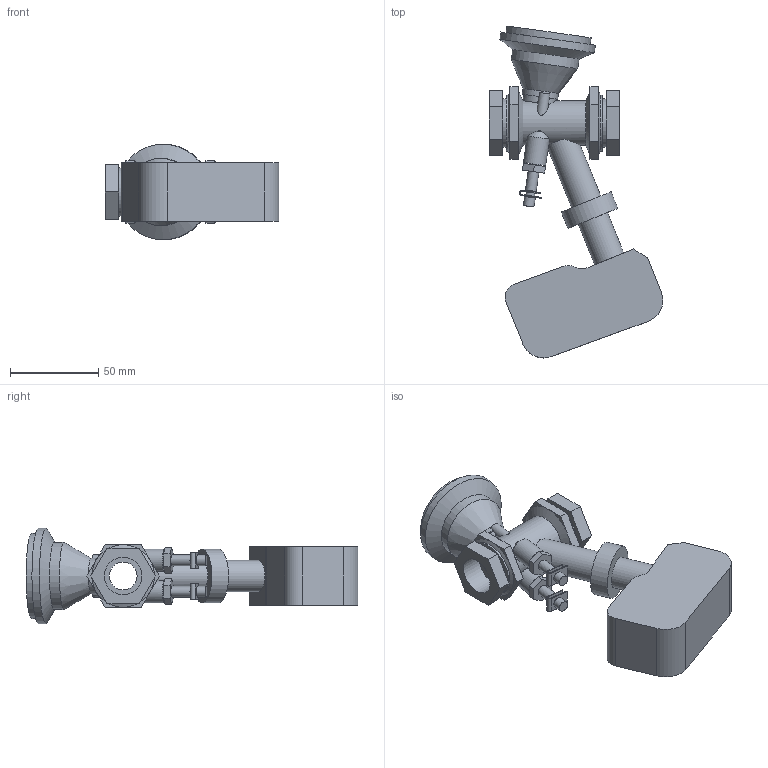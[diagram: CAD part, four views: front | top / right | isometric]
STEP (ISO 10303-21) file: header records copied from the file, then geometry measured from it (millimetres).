
FILE_DESCRIPTION(/* description */ ('VIC BALANCING AND CONTROL VALVE SERIES 7CP (FPT)-TA ACT','CAx-IF Rec.Pracs.---Representation and Presentation of Product Manufacturing Information (PMI)---4.0---2014-10-13'),/* implementation_level */ '2;1');
FILE_NAME(/* name */ 'C:\Users\Vjadhav\AppData\Roaming\Autodesk\ApplicationPlugins\Victaulic.Temp\A633\Victaulic_IPS_Valve Balancing Pressure Independent_TA Series 7CP (FPT)_TA ACT_LF_0.5 (15).stp',/* time_stamp */ '2021-09-14T20:02:33+06:00',/* author */ ('Vjadhav'),/* organization */ ('Victaulic'),/* preprocessor_version */ 'ST-DEVELOPER v17.2',/* originating_system */ 'Autodesk Inventor 2019',/* authorisation */ '');
FILE_SCHEMA (('AP242_MANAGED_MODEL_BASED_3D_ENGINEERING_MIM_LF { 1 0 10303 442 1 1 4 }'));
Length unit declared in the file: inch
Products named in the file (2): 7CP_TA ACT_LF-0.5; 7CP_LF-0.5
Assembly tree (1 placements, depth 2):
  7CP_TA ACT_LF-0.5
    7CP_LF-0.5
Bounding box: 98.52 x 188.47 x 54.1 mm (x, y, z)
Volume: 214618.2 mm3; surface area: 46871.6 mm2
Topology: 1 solids, 1 shells, 174 faces, 432 edges, 288 vertices
Faces by surface type: plane 120, cylinder 46, cone 8
Full cylindrical faces by diameter (mm): 5.08 x6, 6.096 x6, 12.7 x2, 15.799 x2, 17.78 x2, 20.32 x1, 21.336 x3, 25.4 x1, 27.432 x2, 30.471 x1, 31.75 x2, 38.1 x1, 48.26 x1, 54.102 x1
Entity records: 5720 total; most frequent: CARTESIAN_POINT 1118, DIRECTION 944, ORIENTED_EDGE 864, EDGE_CURVE 432, AXIS2_PLACEMENT_3D 350, VERTEX_POINT 288, LINE 244, VECTOR 244
